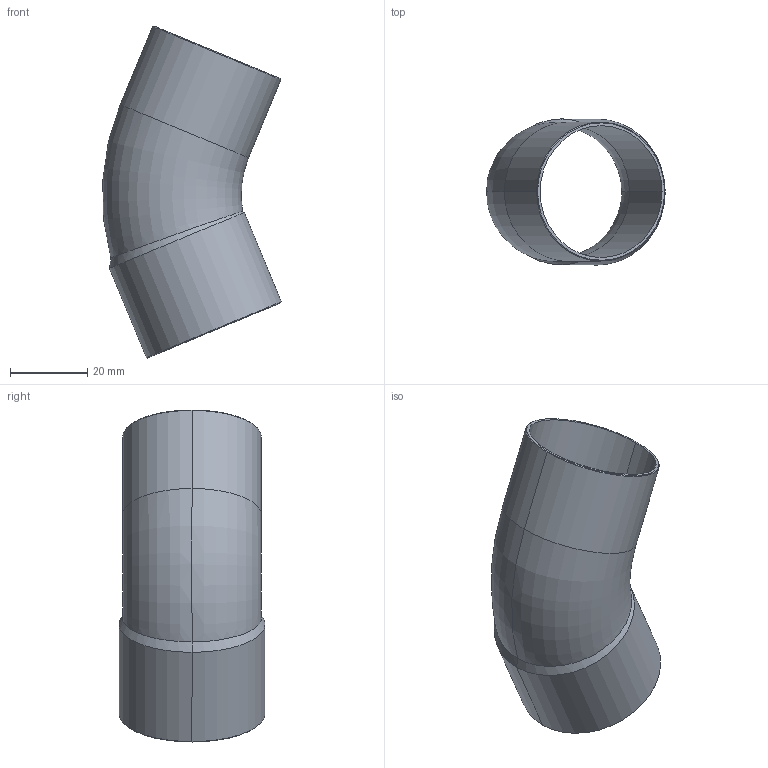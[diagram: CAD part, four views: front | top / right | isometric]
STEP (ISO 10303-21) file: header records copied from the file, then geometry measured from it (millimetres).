
FILE_DESCRIPTION((''),'2;1');
FILE_NAME('P:\Bouwmaten\z-maattekeningen 3D\5000\5040\1504036.stp','2005-10-05T11:35:15',('Kris'),(''),'Autodesk Inventor 8','Autodesk Inventor 8','');
FILE_SCHEMA(('AUTOMOTIVE_DESIGN { 1 0 10303 214 1 1 1 1 }'));
Length unit declared in the file: millimetre
Products named in the file (1): 1504036
Bounding box: 46.25 x 37.8 x 86.03 mm (x, y, z)
Volume: 7702.8 mm3; surface area: 17295.6 mm2
Topology: 1 solids, 1 shells, 24 faces, 50 edges, 28 vertices
Faces by surface type: cone 10, cylinder 8, torus 4, plane 2
Entity records: 729 total; most frequent: CARTESIAN_POINT 179, DIRECTION 124, ORIENTED_EDGE 100, AXIS2_PLACEMENT_3D 53, EDGE_CURVE 50, VERTEX_POINT 28, CIRCLE 28, EDGE_LOOP 26
